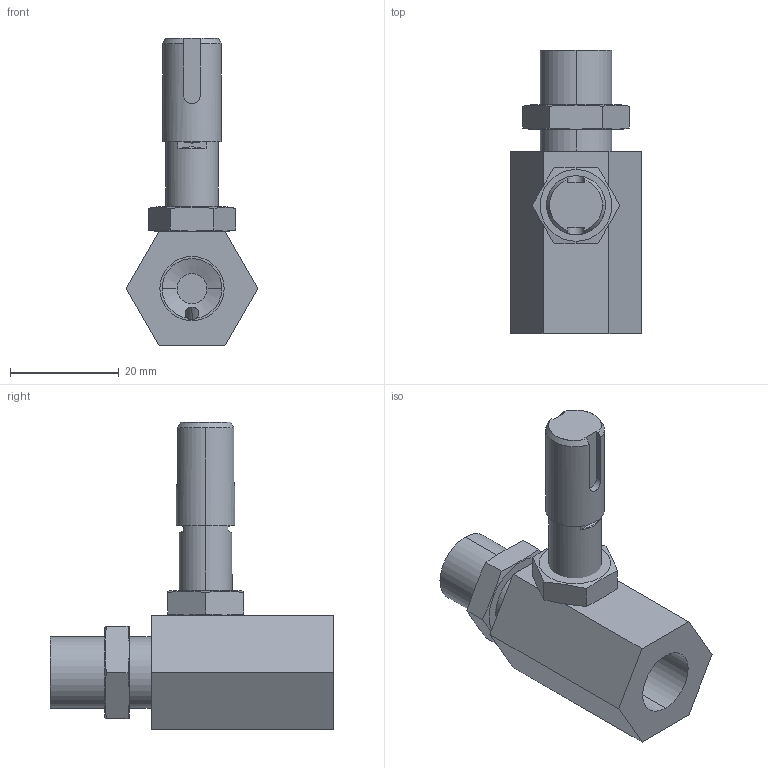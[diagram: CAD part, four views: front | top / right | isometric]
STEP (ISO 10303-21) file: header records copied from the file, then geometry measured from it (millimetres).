
FILE_DESCRIPTION (( 'STEP AP203' ), '1' );
FILE_NAME ('2EJR21L1412000.step', '2017-04-19T08:44:14', ( '' ), ( '' ), 'SwSTEP 2.0', 'SolidWorks 2010', '' );
FILE_SCHEMA (( 'CONFIG_CONTROL_DESIGN' ));
Length unit declared in the file: millimetre
Products named in the file (5): 2EJR21L1412000; Corps 2EJR21_2EJR21L; F64.D250.14; F64.D250.18; Mélangeur 1.6_2EJR21_Version light
Assembly tree (4 placements, depth 2):
  2EJR21L1412000
    Mélangeur 1.6_2EJR21_Version light
    F64.D250.18
    Corps 2EJR21_2EJR21L
    F64.D250.14
Bounding box: 24.25 x 52 x 56.5 mm (x, y, z)
Volume: 16240.6 mm3; surface area: 8409.5 mm2
Topology: 4 solids, 4 shells, 115 faces, 283 edges, 183 vertices
Faces by surface type: plane 51, cylinder 35, cone 23, torus 6
Entity records: 4192 total; most frequent: CARTESIAN_POINT 954, DIRECTION 575, ORIENTED_EDGE 562, EDGE_CURVE 281, AXIS2_PLACEMENT_3D 226, VERTEX_POINT 183, EDGE_LOOP 132, VECTOR 123
